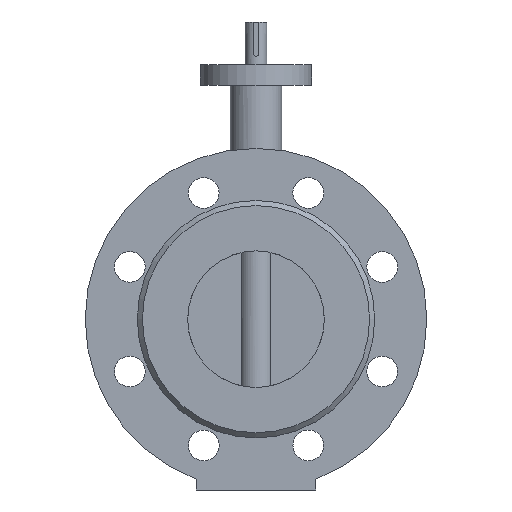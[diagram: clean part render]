
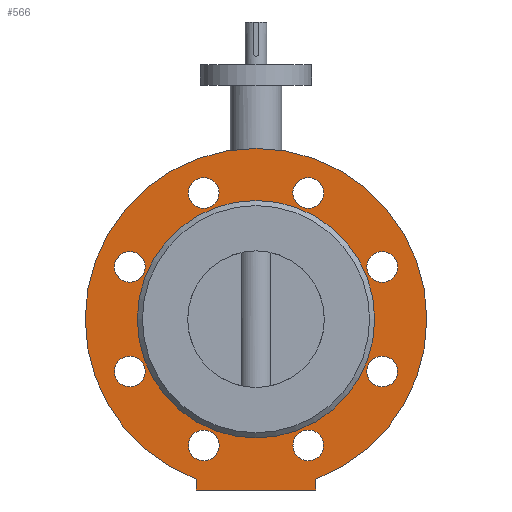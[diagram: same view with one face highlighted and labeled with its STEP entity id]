
A CAD part, front view. The second image highlights one B-rep face of the part: STEP entity #566.
In plain terms, the highlighted planar face has unit normal (0, -1, 0).
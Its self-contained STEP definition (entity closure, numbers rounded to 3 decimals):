
#566=ADVANCED_FACE('',(#1264,#1266,#1268,#1270,#1272,#1274,#1276,#1278,#1280,#1282),
#1284,.T.);
#1264=FACE_BOUND('',#1265,.T.);
#1265=EDGE_LOOP('',(#1744,#1745,#1746,#1747));
#1266=FACE_BOUND('',#1267,.T.);
#1267=EDGE_LOOP('',(#1748));
#1268=FACE_BOUND('',#1269,.T.);
#1269=EDGE_LOOP('',(#1749));
#1270=FACE_BOUND('',#1271,.T.);
#1271=EDGE_LOOP('',(#1750));
#1272=FACE_BOUND('',#1273,.T.);
#1273=EDGE_LOOP('',(#1751));
#1274=FACE_BOUND('',#1275,.T.);
#1275=EDGE_LOOP('',(#1752));
#1276=FACE_BOUND('',#1277,.T.);
#1277=EDGE_LOOP('',(#1753));
#1278=FACE_BOUND('',#1279,.T.);
#1279=EDGE_LOOP('',(#1754));
#1280=FACE_BOUND('',#1281,.T.);
#1281=EDGE_LOOP('',(#1755));
#1282=FACE_BOUND('',#1283,.T.);
#1283=EDGE_LOOP('',(#1756));
#1284=PLANE('',#1285);
#1285=AXIS2_PLACEMENT_3D('',#1286,#1287,#1288);
#1286=CARTESIAN_POINT('',(0.,-54.,0.));
#1287=DIRECTION('',(0.,-1.,0.));
#1288=DIRECTION('',(0.,0.,1.));
#1744=ORIENTED_EDGE('',*,*,#1955,.T.);
#1745=ORIENTED_EDGE('',*,*,#1954,.F.);
#1746=ORIENTED_EDGE('',*,*,#1951,.F.);
#1747=ORIENTED_EDGE('',*,*,#1950,.F.);
#1748=ORIENTED_EDGE('',*,*,#1958,.T.);
#1749=ORIENTED_EDGE('',*,*,#1959,.T.);
#1750=ORIENTED_EDGE('',*,*,#1960,.T.);
#1751=ORIENTED_EDGE('',*,*,#1961,.T.);
#1752=ORIENTED_EDGE('',*,*,#1962,.T.);
#1753=ORIENTED_EDGE('',*,*,#1963,.T.);
#1754=ORIENTED_EDGE('',*,*,#1964,.T.);
#1755=ORIENTED_EDGE('',*,*,#1987,.T.);
#1756=ORIENTED_EDGE('',*,*,#1965,.T.);
#1950=EDGE_CURVE('',#2209,#2207,#2211,.T.);
#1951=EDGE_CURVE('',#2207,#2212,#2213,.T.);
#1954=EDGE_CURVE('',#2212,#2215,#2217,.T.);
#1955=EDGE_CURVE('',#2209,#2215,#2218,.T.);
#1958=EDGE_CURVE('',#2221,#2221,#2222,.F.);
#1959=EDGE_CURVE('',#2223,#2223,#2224,.F.);
#1960=EDGE_CURVE('',#2225,#2225,#2226,.F.);
#1961=EDGE_CURVE('',#2227,#2227,#2228,.F.);
#1962=EDGE_CURVE('',#2229,#2229,#2230,.F.);
#1963=EDGE_CURVE('',#2231,#2231,#2232,.F.);
#1964=EDGE_CURVE('',#2233,#2233,#2234,.F.);
#1965=EDGE_CURVE('',#2235,#2235,#2236,.F.);
#1987=EDGE_CURVE('',#2275,#2275,#2276,.T.);
#2207=VERTEX_POINT('',#3140);
#2209=VERTEX_POINT('',#3144);
#2211=CIRCLE('',#3148,100.);
#2212=VERTEX_POINT('',#3152);
#2213=LINE('',#3153,#3154);
#2215=VERTEX_POINT('',#3159);
#2217=LINE('',#3163,#3164);
#2218=LINE('',#3166,#3167);
#2221=VERTEX_POINT('',#3175);
#2222=CIRCLE('',#3176,9.);
#2223=VERTEX_POINT('',#3180);
#2224=CIRCLE('',#3181,9.);
#2225=VERTEX_POINT('',#3185);
#2226=CIRCLE('',#3186,9.);
#2227=VERTEX_POINT('',#3190);
#2228=CIRCLE('',#3191,9.);
#2229=VERTEX_POINT('',#3195);
#2230=CIRCLE('',#3196,9.);
#2231=VERTEX_POINT('',#3200);
#2232=CIRCLE('',#3201,9.);
#2233=VERTEX_POINT('',#3205);
#2234=CIRCLE('',#3206,9.);
#2235=VERTEX_POINT('',#3210);
#2236=CIRCLE('',#3211,9.);
#2275=VERTEX_POINT('',#3309);
#2276=CIRCLE('',#3310,69.5);
#3140=CARTESIAN_POINT('',(35.,-54.,-93.675));
#3144=CARTESIAN_POINT('',(-35.,-54.,-93.675));
#3148=AXIS2_PLACEMENT_3D('',#3149,#3150,#3151);
#3149=CARTESIAN_POINT('',(0.,-54.,0.));
#3150=DIRECTION('',(0.,1.,0.));
#3151=DIRECTION('',(-0.35,0.,-0.937));
#3152=CARTESIAN_POINT('',(35.,-54.,-100.));
#3153=CARTESIAN_POINT('',(35.,-54.,-93.675));
#3154=VECTOR('',#3155,1.);
#3155=DIRECTION('',(0.,0.,-1.));
#3159=CARTESIAN_POINT('',(-35.,-54.,-100.));
#3163=CARTESIAN_POINT('',(35.,-54.,-100.));
#3164=VECTOR('',#3165,1.);
#3165=DIRECTION('',(-1.,0.,0.));
#3166=CARTESIAN_POINT('',(-35.,-54.,-93.675));
#3167=VECTOR('',#3168,1.);
#3168=DIRECTION('',(0.,0.,-1.));
#3175=CARTESIAN_POINT('',(36.979,-54.,67.546));
#3176=AXIS2_PLACEMENT_3D('',#3177,#3178,#3179);
#3177=CARTESIAN_POINT('',(30.615,-54.,73.91));
#3178=DIRECTION('',(0.,-1.,0.));
#3179=DIRECTION('',(0.707,0.,-0.707));
#3180=CARTESIAN_POINT('',(73.91,-54.,21.615));
#3181=AXIS2_PLACEMENT_3D('',#3182,#3183,#3184);
#3182=CARTESIAN_POINT('',(73.91,-54.,30.615));
#3183=DIRECTION('',(0.,-1.,0.));
#3184=DIRECTION('',(0.,0.,-1.));
#3185=CARTESIAN_POINT('',(67.546,-54.,-36.979));
#3186=AXIS2_PLACEMENT_3D('',#3187,#3188,#3189);
#3187=CARTESIAN_POINT('',(73.91,-54.,-30.615));
#3188=DIRECTION('',(0.,-1.,0.));
#3189=DIRECTION('',(-0.707,0.,-0.707));
#3190=CARTESIAN_POINT('',(21.615,-54.,-73.91));
#3191=AXIS2_PLACEMENT_3D('',#3192,#3193,#3194);
#3192=CARTESIAN_POINT('',(30.615,-54.,-73.91));
#3193=DIRECTION('',(0.,-1.,0.));
#3194=DIRECTION('',(-1.,0.,0.));
#3195=CARTESIAN_POINT('',(-36.979,-54.,-67.546));
#3196=AXIS2_PLACEMENT_3D('',#3197,#3198,#3199);
#3197=CARTESIAN_POINT('',(-30.615,-54.,-73.91));
#3198=DIRECTION('',(0.,-1.,0.));
#3199=DIRECTION('',(-0.707,0.,0.707));
#3200=CARTESIAN_POINT('',(-73.91,-54.,-21.615));
#3201=AXIS2_PLACEMENT_3D('',#3202,#3203,#3204);
#3202=CARTESIAN_POINT('',(-73.91,-54.,-30.615));
#3203=DIRECTION('',(0.,-1.,0.));
#3204=DIRECTION('',(0.,0.,1.));
#3205=CARTESIAN_POINT('',(-67.546,-54.,36.979));
#3206=AXIS2_PLACEMENT_3D('',#3207,#3208,#3209);
#3207=CARTESIAN_POINT('',(-73.91,-54.,30.615));
#3208=DIRECTION('',(0.,-1.,0.));
#3209=DIRECTION('',(0.707,0.,0.707));
#3210=CARTESIAN_POINT('',(-21.615,-54.,73.91));
#3211=AXIS2_PLACEMENT_3D('',#3212,#3213,#3214);
#3212=CARTESIAN_POINT('',(-30.615,-54.,73.91));
#3213=DIRECTION('',(0.,-1.,0.));
#3214=DIRECTION('',(1.,0.,0.));
#3309=CARTESIAN_POINT('',(0.,-54.,69.5));
#3310=AXIS2_PLACEMENT_3D('',#3311,#3312,#3313);
#3311=CARTESIAN_POINT('',(0.,-54.,0.));
#3312=DIRECTION('',(0.,1.,0.));
#3313=DIRECTION('',(0.,0.,1.));
